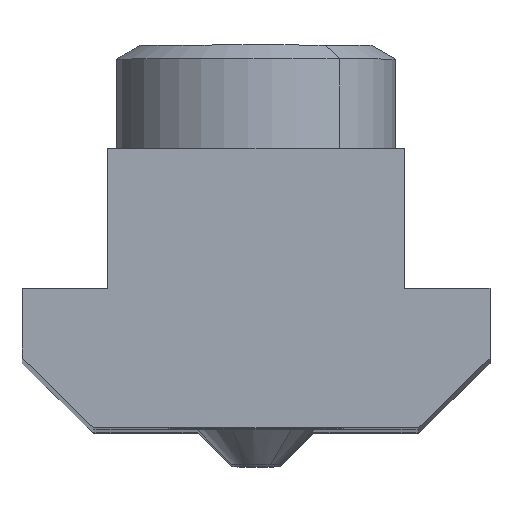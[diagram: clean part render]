
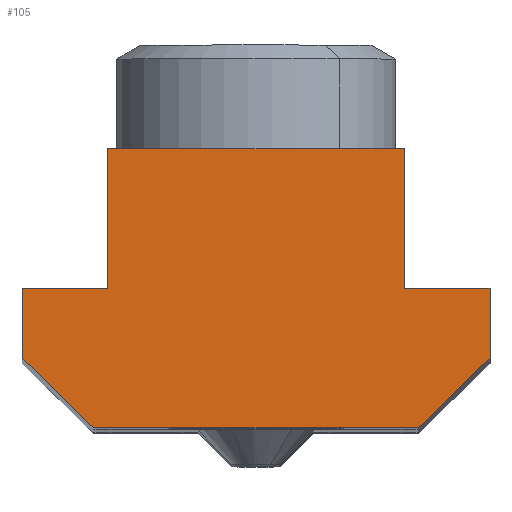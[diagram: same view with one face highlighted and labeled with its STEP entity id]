
A CAD part, top view. The second image highlights one B-rep face of the part: STEP entity #105.
In plain terms, the highlighted planar face has unit normal (0, 0, 1).
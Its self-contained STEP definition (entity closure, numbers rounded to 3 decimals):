
#58 = ORIENTED_EDGE ( 'NONE', *, *, #1447, .T. ) ;
#105 = ADVANCED_FACE ( 'NONE', ( #895 ), #916, .T. ) ;
#108 = LINE ( 'NONE', #398, #1280 ) ;
#113 = VERTEX_POINT ( 'NONE', #590 ) ;
#158 = VECTOR ( 'NONE', #1599, 1000. ) ;
#168 = CARTESIAN_POINT ( 'NONE',  ( 4.25, 0., 45. ) ) ;
#174 = CARTESIAN_POINT ( 'NONE',  ( -4.25, 0., 45. ) ) ;
#179 = LINE ( 'NONE', #1378, #771 ) ;
#241 = LINE ( 'NONE', #1630, #158 ) ;
#261 = EDGE_CURVE ( 'NONE', #1298, #1725, #1923, .T. ) ;
#285 = EDGE_CURVE ( 'NONE', #1725, #113, #1294, .T. ) ;
#286 = CARTESIAN_POINT ( 'NONE',  ( 0., 0., 45. ) ) ;
#361 = CARTESIAN_POINT ( 'NONE',  ( 6.7, -6., 45. ) ) ;
#369 = CARTESIAN_POINT ( 'NONE',  ( 6.7, -6., 45. ) ) ;
#370 = ORIENTED_EDGE ( 'NONE', *, *, #285, .T. ) ;
#396 = AXIS2_PLACEMENT_3D ( 'NONE', #286, #1973, #1532 ) ;
#398 = CARTESIAN_POINT ( 'NONE',  ( -4.65, -8., 45. ) ) ;
#413 = CARTESIAN_POINT ( 'NONE',  ( -4.25, -4., 45. ) ) ;
#480 = DIRECTION ( 'NONE',  ( 0., -1., 0. ) ) ;
#507 = CARTESIAN_POINT ( 'NONE',  ( 4.65, -8., 45. ) ) ;
#522 = LINE ( 'NONE', #830, #722 ) ;
#555 = CARTESIAN_POINT ( 'NONE',  ( -6.7, -4., 45. ) ) ;
#590 = CARTESIAN_POINT ( 'NONE',  ( 4.25, -4., 45. ) ) ;
#647 = ORIENTED_EDGE ( 'NONE', *, *, #1300, .T. ) ;
#651 = DIRECTION ( 'NONE',  ( 0.716, 0.698, 0. ) ) ;
#680 = LINE ( 'NONE', #413, #1524 ) ;
#688 = VERTEX_POINT ( 'NONE', #930 ) ;
#720 = EDGE_CURVE ( 'NONE', #113, #1291, #1671, .T. ) ;
#722 = VECTOR ( 'NONE', #1449, 1000. ) ;
#769 = VERTEX_POINT ( 'NONE', #1691 ) ;
#771 = VECTOR ( 'NONE', #480, 1000. ) ;
#793 = ORIENTED_EDGE ( 'NONE', *, *, #261, .T. ) ;
#800 = CARTESIAN_POINT ( 'NONE',  ( -4.65, -8., 45. ) ) ;
#825 = ORIENTED_EDGE ( 'NONE', *, *, #988, .T. ) ;
#830 = CARTESIAN_POINT ( 'NONE',  ( -6.7, -6., 45. ) ) ;
#858 = DIRECTION ( 'NONE',  ( 1., 0., 0. ) ) ;
#892 = VERTEX_POINT ( 'NONE', #800 ) ;
#895 = FACE_OUTER_BOUND ( 'NONE', #1324, .T. ) ;
#900 = VECTOR ( 'NONE', #977, 1000. ) ;
#903 = LINE ( 'NONE', #507, #1184 ) ;
#916 = PLANE ( 'NONE',  #396 ) ;
#930 = CARTESIAN_POINT ( 'NONE',  ( -6.7, -6., 45. ) ) ;
#977 = DIRECTION ( 'NONE',  ( 0., 1., 0. ) ) ;
#988 = EDGE_CURVE ( 'NONE', #688, #892, #522, .T. ) ;
#1007 = DIRECTION ( 'NONE',  ( -1., 0., 0. ) ) ;
#1013 = EDGE_CURVE ( 'NONE', #1829, #688, #241, .T. ) ;
#1020 = EDGE_CURVE ( 'NONE', #892, #1390, #108, .T. ) ;
#1101 = VECTOR ( 'NONE', #1534, 1000. ) ;
#1109 = CARTESIAN_POINT ( 'NONE',  ( 4.25, 0., 45. ) ) ;
#1122 = VERTEX_POINT ( 'NONE', #1174 ) ;
#1174 = CARTESIAN_POINT ( 'NONE',  ( -4.25, -4., 45. ) ) ;
#1184 = VECTOR ( 'NONE', #651, 1000. ) ;
#1233 = LINE ( 'NONE', #174, #1785 ) ;
#1280 = VECTOR ( 'NONE', #858, 1000. ) ;
#1291 = VERTEX_POINT ( 'NONE', #1109 ) ;
#1294 = LINE ( 'NONE', #1624, #1780 ) ;
#1298 = VERTEX_POINT ( 'NONE', #361 ) ;
#1300 = EDGE_CURVE ( 'NONE', #769, #1122, #179, .T. ) ;
#1324 = EDGE_LOOP ( 'NONE', ( #370, #1582, #1836, #647, #58, #1858, #825, #1941, #1634, #793 ) ) ;
#1378 = CARTESIAN_POINT ( 'NONE',  ( -4.25, 0., 45. ) ) ;
#1390 = VERTEX_POINT ( 'NONE', #1607 ) ;
#1427 = DIRECTION ( 'NONE',  ( -1., 0., 0. ) ) ;
#1447 = EDGE_CURVE ( 'NONE', #1122, #1829, #680, .T. ) ;
#1449 = DIRECTION ( 'NONE',  ( 0.716, -0.698, 0. ) ) ;
#1524 = VECTOR ( 'NONE', #1007, 1000. ) ;
#1532 = DIRECTION ( 'NONE',  ( 1., 0., 0. ) ) ;
#1534 = DIRECTION ( 'NONE',  ( 0., 1., 0. ) ) ;
#1582 = ORIENTED_EDGE ( 'NONE', *, *, #720, .T. ) ;
#1599 = DIRECTION ( 'NONE',  ( 0., -1., 0. ) ) ;
#1607 = CARTESIAN_POINT ( 'NONE',  ( 4.65, -8., 45. ) ) ;
#1624 = CARTESIAN_POINT ( 'NONE',  ( 4.25, -4., 45. ) ) ;
#1630 = CARTESIAN_POINT ( 'NONE',  ( -6.7, -4., 45. ) ) ;
#1634 = ORIENTED_EDGE ( 'NONE', *, *, #1711, .T. ) ;
#1665 = DIRECTION ( 'NONE',  ( -1., 0., 0. ) ) ;
#1671 = LINE ( 'NONE', #168, #1101 ) ;
#1691 = CARTESIAN_POINT ( 'NONE',  ( -4.25, 0., 45. ) ) ;
#1711 = EDGE_CURVE ( 'NONE', #1390, #1298, #903, .T. ) ;
#1725 = VERTEX_POINT ( 'NONE', #1868 ) ;
#1780 = VECTOR ( 'NONE', #1427, 1000. ) ;
#1785 = VECTOR ( 'NONE', #1665, 1000. ) ;
#1829 = VERTEX_POINT ( 'NONE', #555 ) ;
#1836 = ORIENTED_EDGE ( 'NONE', *, *, #1927, .T. ) ;
#1858 = ORIENTED_EDGE ( 'NONE', *, *, #1013, .T. ) ;
#1868 = CARTESIAN_POINT ( 'NONE',  ( 6.7, -4., 45. ) ) ;
#1923 = LINE ( 'NONE', #369, #900 ) ;
#1927 = EDGE_CURVE ( 'NONE', #1291, #769, #1233, .T. ) ;
#1941 = ORIENTED_EDGE ( 'NONE', *, *, #1020, .T. ) ;
#1973 = DIRECTION ( 'NONE',  ( 0., 0., 1. ) ) ;
